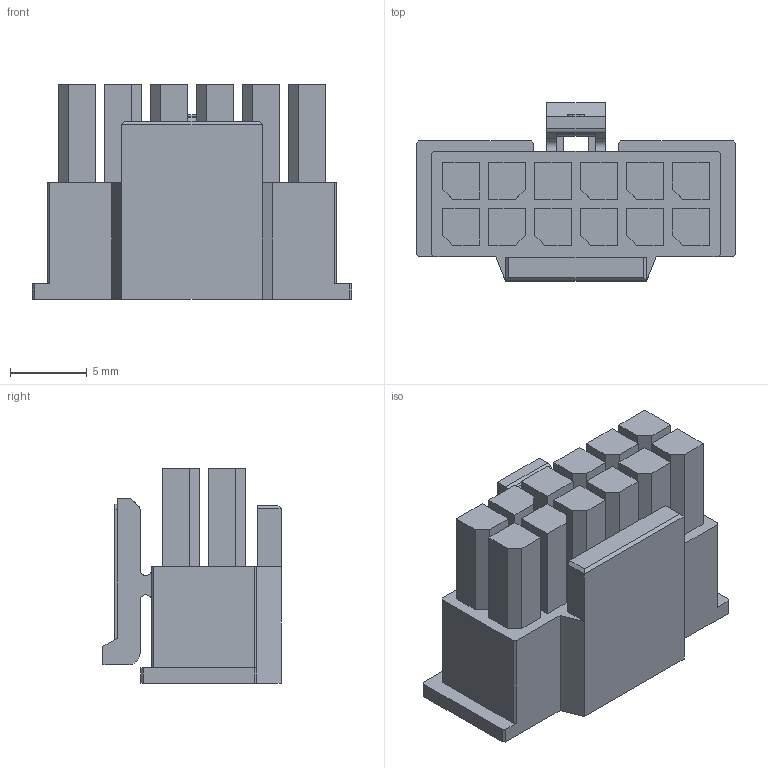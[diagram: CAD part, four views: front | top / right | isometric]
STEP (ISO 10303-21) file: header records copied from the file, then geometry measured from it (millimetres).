
FILE_DESCRIPTION((''),'2;1');
FILE_NAME('PRT0001','2023-08-01T',('t01237'),(''),'PRO/ENGINEER BY PARAMETRIC TECHNOLOGY CORPORATION, 2011490','PRO/ENGINEER BY PARAMETRIC TECHNOLOGY CORPORATION, 2011490','');
FILE_SCHEMA(('CONFIG_CONTROL_DESIGN', 'GEOMETRIC_VALIDATION_PROPERTIES_MIM'));
Length unit declared in the file: millimetre
Products named in the file (1): PRT0001
Bounding box: 20.85 x 11.63 x 14 mm (x, y, z)
Volume: 1667.1 mm3; surface area: 1695.6 mm2
Topology: 1 solids, 1 shells, 181 faces, 492 edges, 328 vertices
Faces by surface type: plane 170, cylinder 11
Entity records: 6974 total; most frequent: CARTESIAN_POINT 1003, ORIENTED_EDGE 984, DIRECTION 882, EDGE_CURVE 492, VECTOR 464, LINE 464, VERTEX_POINT 328, AXIS2_PLACEMENT_3D 209
